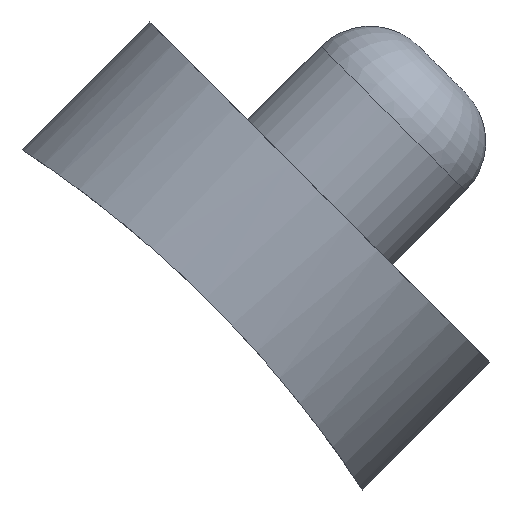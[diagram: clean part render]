
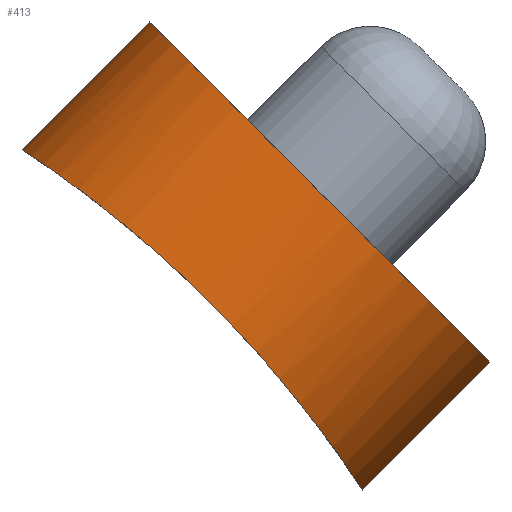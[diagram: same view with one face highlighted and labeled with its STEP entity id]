
A CAD part, front view. The second image highlights one B-rep face of the part: STEP entity #413.
In plain terms, the highlighted cylindrical face has radius 6.95 mm (diameter 13.9 mm), a partial arc.
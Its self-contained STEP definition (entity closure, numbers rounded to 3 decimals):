
#1 = CARTESIAN_POINT ( 'NONE',  ( -33.305, 517., 19.587 ) ) ;
#2 = CARTESIAN_POINT ( 'NONE',  ( -32.719, 510.229, 12.586 ) ) ;
#4 = AXIS2_PLACEMENT_3D ( 'NONE', #343, #202, #94 ) ;
#20 = VERTEX_POINT ( 'NONE', #301 ) ;
#22 = CARTESIAN_POINT ( 'NONE',  ( -35.904, 512.95, 15.153 ) ) ;
#26 = CARTESIAN_POINT ( 'NONE',  ( -36.683, 514.762, 15.691 ) ) ;
#29 = CARTESIAN_POINT ( 'NONE',  ( -34.159, 510.98, 13.825 ) ) ;
#35 = CARTESIAN_POINT ( 'NONE',  ( -29.495, 510.764, 9.216 ) ) ;
#38 = CARTESIAN_POINT ( 'NONE',  ( -29.629, 510.666, 9.377 ) ) ;
#39 = CARTESIAN_POINT ( 'NONE',  ( -29.116, 511.095, 8.753 ) ) ;
#52 = CARTESIAN_POINT ( 'NONE',  ( -28.39, 517., 14.672 ) ) ;
#58 = CARTESIAN_POINT ( 'NONE',  ( -36.617, 514.545, 15.647 ) ) ;
#61 = CYLINDRICAL_SURFACE ( 'NONE', #226, 6.95 ) ;
#63 = VERTEX_POINT ( 'NONE', #207 ) ;
#70 = CARTESIAN_POINT ( 'NONE',  ( -34.313, 511.098, 13.95 ) ) ;
#71 = CARTESIAN_POINT ( 'NONE',  ( -33.305, 517., 19.587 ) ) ;
#72 = CARTESIAN_POINT ( 'NONE',  ( -27.573, 513.915, 6.677 ) ) ;
#79 = EDGE_CURVE ( 'NONE', #260, #63, #269, .T. ) ;
#94 = DIRECTION ( 'NONE',  ( -0.707, 0., 0.707 ) ) ;
#100 = EDGE_CURVE ( 'NONE', #20, #63, #163, .T. ) ;
#104 = CARTESIAN_POINT ( 'NONE',  ( -27.292, 515.186, 6.261 ) ) ;
#108 = CARTESIAN_POINT ( 'NONE',  ( -30.041, 510.404, 9.859 ) ) ;
#111 = CARTESIAN_POINT ( 'NONE',  ( -28.546, 511.76, 8.027 ) ) ;
#114 = CARTESIAN_POINT ( 'NONE',  ( -27.986, 512.755, 7.268 ) ) ;
#125 = DIRECTION ( 'NONE',  ( -0.707, 0., -0.707 ) ) ;
#127 = VECTOR ( 'NONE', #387, 1000. ) ;
#145 = CARTESIAN_POINT ( 'NONE',  ( -33.211, 510.418, 13.025 ) ) ;
#147 = DIRECTION ( 'NONE',  ( -0.707, 0., -0.707 ) ) ;
#148 = CARTESIAN_POINT ( 'NONE',  ( -29.238, 510.979, 8.905 ) ) ;
#161 = CARTESIAN_POINT ( 'NONE',  ( -23.476, 517., 9.758 ) ) ;
#162 = FACE_OUTER_BOUND ( 'NONE', #411, .T. ) ;
#163 = B_SPLINE_CURVE_WITH_KNOTS ( 'NONE', 3,
 ( #271, #346, #420, #384, #307, #26, #58, #311, #349, #22, #303, #455, #213, #473, #279, #70, #29, #430, #364, #145, #366, #2, #286, #468, #356, #360, #324, #108, #38, #35, #148, #39, #288, #111, #439, #114, #255, #182, #72, #357, #179, #104, #251, #216, #402 ),
 .UNSPECIFIED., .F., .F.,
 ( 4, 2, 2, 2, 2, 2, 2, 2, 2, 1, 2, 2, 2, 2, 2, 2, 2, 2, 2, 2, 2, 2, 4 ),
 ( 0., 0.001, 0.002, 0.003, 0.004, 0.005, 0.005, 0.007, 0.007, 0.008, 0.009, 0.01, 0.011, 0.012, 0.014, 0.014, 0.015, 0.016, 0.018, 0.018, 0.019, 0.02, 0.022 ),
 .UNSPECIFIED. ) ;
#175 = LINE ( 'NONE', #1, #369 ) ;
#179 = CARTESIAN_POINT ( 'NONE',  ( -27.367, 514.753, 6.373 ) ) ;
#182 = CARTESIAN_POINT ( 'NONE',  ( -27.697, 513.513, 6.857 ) ) ;
#202 = DIRECTION ( 'NONE',  ( -0.707, 0., -0.707 ) ) ;
#207 = CARTESIAN_POINT ( 'NONE',  ( -27.166, 517., 6.068 ) ) ;
#209 = ORIENTED_EDGE ( 'NONE', *, *, #440, .T. ) ;
#212 = CIRCLE ( 'NONE', #4, 6.95 ) ;
#213 = CARTESIAN_POINT ( 'NONE',  ( -35.429, 512.245, 14.809 ) ) ;
#216 = CARTESIAN_POINT ( 'NONE',  ( -27.166, 516.54, 6.068 ) ) ;
#226 = AXIS2_PLACEMENT_3D ( 'NONE', #52, #125, #263 ) ;
#233 = CARTESIAN_POINT ( 'NONE',  ( -23.476, 517., 9.758 ) ) ;
#251 = CARTESIAN_POINT ( 'NONE',  ( -27.191, 516.079, 6.108 ) ) ;
#255 = CARTESIAN_POINT ( 'NONE',  ( -27.765, 513.319, 6.955 ) ) ;
#260 = VERTEX_POINT ( 'NONE', #161 ) ;
#263 = DIRECTION ( 'NONE',  ( -0.707, 0., 0.707 ) ) ;
#269 = LINE ( 'NONE', #233, #127 ) ;
#271 = CARTESIAN_POINT ( 'NONE',  ( -36.994, 517., 15.897 ) ) ;
#279 = CARTESIAN_POINT ( 'NONE',  ( -34.761, 511.479, 14.306 ) ) ;
#286 = CARTESIAN_POINT ( 'NONE',  ( -32.224, 510.095, 12.129 ) ) ;
#288 = CARTESIAN_POINT ( 'NONE',  ( -28.763, 511.472, 8.309 ) ) ;
#292 = ORIENTED_EDGE ( 'NONE', *, *, #100, .T. ) ;
#301 = CARTESIAN_POINT ( 'NONE',  ( -36.994, 517., 15.897 ) ) ;
#303 = CARTESIAN_POINT ( 'NONE',  ( -35.791, 512.766, 15.073 ) ) ;
#307 = CARTESIAN_POINT ( 'NONE',  ( -36.795, 515.199, 15.766 ) ) ;
#311 = CARTESIAN_POINT ( 'NONE',  ( -36.396, 513.915, 15.497 ) ) ;
#324 = CARTESIAN_POINT ( 'NONE',  ( -30.329, 510.273, 10.184 ) ) ;
#343 = CARTESIAN_POINT ( 'NONE',  ( -28.39, 517., 14.672 ) ) ;
#346 = CARTESIAN_POINT ( 'NONE',  ( -36.994, 516.54, 15.897 ) ) ;
#349 = CARTESIAN_POINT ( 'NONE',  ( -36.217, 513.516, 15.374 ) ) ;
#356 = CARTESIAN_POINT ( 'NONE',  ( -31.255, 510.05, 11.173 ) ) ;
#357 = CARTESIAN_POINT ( 'NONE',  ( -27.516, 514.123, 6.594 ) ) ;
#360 = CARTESIAN_POINT ( 'NONE',  ( -30.935, 510.095, 10.84 ) ) ;
#361 = ORIENTED_EDGE ( 'NONE', *, *, #79, .F. ) ;
#364 = CARTESIAN_POINT ( 'NONE',  ( -33.534, 510.572, 13.306 ) ) ;
#366 = CARTESIAN_POINT ( 'NONE',  ( -32.885, 510.286, 12.736 ) ) ;
#369 = VECTOR ( 'NONE', #147, 1000. ) ;
#378 = EDGE_CURVE ( 'NONE', #260, #435, #212, .T. ) ;
#384 = CARTESIAN_POINT ( 'NONE',  ( -36.842, 515.42, 15.797 ) ) ;
#387 = DIRECTION ( 'NONE',  ( -0.707, 0., -0.707 ) ) ;
#402 = CARTESIAN_POINT ( 'NONE',  ( -27.166, 517., 6.068 ) ) ;
#411 = EDGE_LOOP ( 'NONE', ( #209, #292, #361, #414 ) ) ;
#413 = ADVANCED_FACE ( 'NONE', ( #162 ), #61, .T. ) ;
#414 = ORIENTED_EDGE ( 'NONE', *, *, #378, .T. ) ;
#420 = CARTESIAN_POINT ( 'NONE',  ( -36.956, 516.087, 15.872 ) ) ;
#430 = CARTESIAN_POINT ( 'NONE',  ( -33.848, 510.765, 13.57 ) ) ;
#435 = VERTEX_POINT ( 'NONE', #71 ) ;
#439 = CARTESIAN_POINT ( 'NONE',  ( -28.156, 512.406, 7.503 ) ) ;
#440 = EDGE_CURVE ( 'NONE', #435, #20, #175, .T. ) ;
#455 = CARTESIAN_POINT ( 'NONE',  ( -35.554, 512.413, 14.901 ) ) ;
#468 = CARTESIAN_POINT ( 'NONE',  ( -31.898, 510.05, 11.816 ) ) ;
#473 = CARTESIAN_POINT ( 'NONE',  ( -35.041, 511.766, 14.52 ) ) ;
